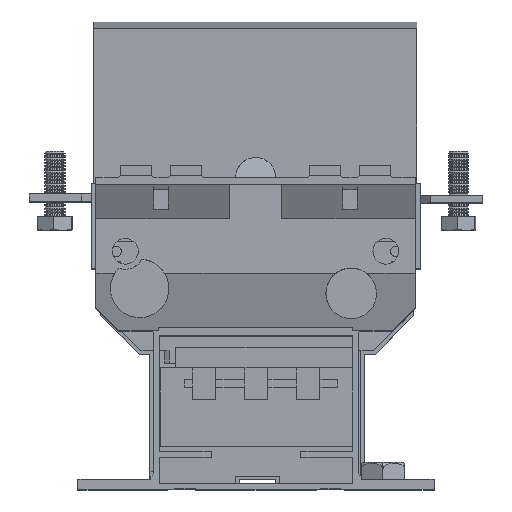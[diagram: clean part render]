
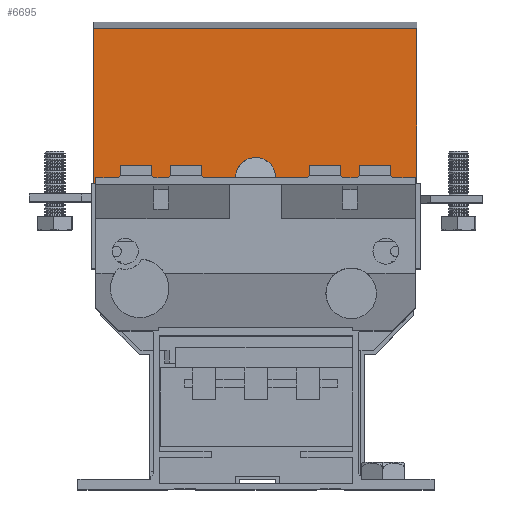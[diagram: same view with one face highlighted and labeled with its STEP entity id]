
A CAD part, top view. The second image highlights one B-rep face of the part: STEP entity #6695.
In plain terms, the highlighted planar face has unit normal (0, 0, 1) as drawn and (-1, 0, 0) by its records, which use the part's own axes.
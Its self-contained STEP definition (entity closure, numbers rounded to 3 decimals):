
#6695 = ADVANCED_FACE ( 'NONE', ( #12273 ), #12272, .F. ) ;
#6696 = EDGE_LOOP ( 'NONE', ( #6697, #6701, #6757, #6759, #6760, #6762, #6763, #6766 ) ) ;
#6697 = ORIENTED_EDGE ( 'NONE', *, *, #6698, .F. ) ;
#6698 = EDGE_CURVE ( 'NONE', #6699, #6700, #12331, .T. ) ;
#6699 = VERTEX_POINT ( 'NONE', #12327 ) ;
#6700 = VERTEX_POINT ( 'NONE', #12326 ) ;
#6701 = ORIENTED_EDGE ( 'NONE', *, *, #6703, .F. ) ;
#6703 = EDGE_CURVE ( 'NONE', #6704, #6699, #12325, .T. ) ;
#6704 = VERTEX_POINT ( 'NONE', #12321 ) ;
#6757 = ORIENTED_EDGE ( 'NONE', *, *, #6758, .F. ) ;
#6758 = EDGE_CURVE ( 'NONE', #7846, #6704, #12413, .T. ) ;
#6759 = ORIENTED_EDGE ( 'NONE', *, *, #7844, .F. ) ;
#6760 = ORIENTED_EDGE ( 'NONE', *, *, #6761, .T. ) ;
#6761 = EDGE_CURVE ( 'NONE', #7845, #7960, #12409, .T. ) ;
#6762 = ORIENTED_EDGE ( 'NONE', *, *, #7959, .T. ) ;
#6763 = ORIENTED_EDGE ( 'NONE', *, *, #6764, .F. ) ;
#6764 = EDGE_CURVE ( 'NONE', #6765, #7893, #12405, .T. ) ;
#6765 = VERTEX_POINT ( 'NONE', #12401 ) ;
#6766 = ORIENTED_EDGE ( 'NONE', *, *, #6767, .T. ) ;
#6767 = EDGE_CURVE ( 'NONE', #6765, #6700, #12464, .T. ) ;
#7844 = EDGE_CURVE ( 'NONE', #7845, #7846, #13927, .T. ) ;
#7845 = VERTEX_POINT ( 'NONE', #13923 ) ;
#7846 = VERTEX_POINT ( 'NONE', #13922 ) ;
#7893 = VERTEX_POINT ( 'NONE', #14025 ) ;
#7959 = EDGE_CURVE ( 'NONE', #7960, #7893, #14168, .T. ) ;
#7960 = VERTEX_POINT ( 'NONE', #14164 ) ;
#12269 = DIRECTION ( 'NONE',  ( 1., 0., 0. ) ) ;
#12270 = CARTESIAN_POINT ( 'NONE',  ( -54.9, 0., 124. ) ) ;
#12271 = AXIS2_PLACEMENT_3D ( 'NONE', #12270, #12269, #12332 ) ;
#12272 = PLANE ( 'NONE',  #12271 ) ;
#12273 = FACE_OUTER_BOUND ( 'NONE', #6696, .T. ) ;
#12321 = CARTESIAN_POINT ( 'NONE',  ( -54.9, 4., 105.217 ) ) ;
#12322 = DIRECTION ( 'NONE',  ( 0., -1., 0. ) ) ;
#12323 = VECTOR ( 'NONE', #12322, 1000. ) ;
#12324 = CARTESIAN_POINT ( 'NONE',  ( -54.9, 4., 105.217 ) ) ;
#12325 = LINE ( 'NONE', #12324, #12323 ) ;
#12326 = CARTESIAN_POINT ( 'NONE',  ( -54.9, 0., 18.783 ) ) ;
#12327 = CARTESIAN_POINT ( 'NONE',  ( -54.9, 0., 105.217 ) ) ;
#12328 = DIRECTION ( 'NONE',  ( 0., 0., -1. ) ) ;
#12329 = VECTOR ( 'NONE', #12328, 1000. ) ;
#12330 = CARTESIAN_POINT ( 'NONE',  ( -54.9, 0., 124. ) ) ;
#12331 = LINE ( 'NONE', #12330, #12329 ) ;
#12332 = DIRECTION ( 'NONE',  ( 0., 1., 0. ) ) ;
#12401 = CARTESIAN_POINT ( 'NONE',  ( -54.9, 4., 18.783 ) ) ;
#12402 = DIRECTION ( 'NONE',  ( 0., 0., -1. ) ) ;
#12403 = VECTOR ( 'NONE', #12402, 1000. ) ;
#12404 = CARTESIAN_POINT ( 'NONE',  ( -54.9, 4., 0. ) ) ;
#12405 = LINE ( 'NONE', #12404, #12403 ) ;
#12406 = DIRECTION ( 'NONE',  ( 0., 0., -1. ) ) ;
#12407 = VECTOR ( 'NONE', #12406, 1000. ) ;
#12408 = CARTESIAN_POINT ( 'NONE',  ( -54.9, 63.5, 124. ) ) ;
#12409 = LINE ( 'NONE', #12408, #12407 ) ;
#12410 = DIRECTION ( 'NONE',  ( 0., 0., -1. ) ) ;
#12411 = VECTOR ( 'NONE', #12410, 1000. ) ;
#12412 = CARTESIAN_POINT ( 'NONE',  ( -54.9, 4., 124. ) ) ;
#12413 = LINE ( 'NONE', #12412, #12411 ) ;
#12461 = DIRECTION ( 'NONE',  ( 0., -1., 0. ) ) ;
#12462 = VECTOR ( 'NONE', #12461, 1000. ) ;
#12463 = CARTESIAN_POINT ( 'NONE',  ( -54.9, 4., 18.783 ) ) ;
#12464 = LINE ( 'NONE', #12463, #12462 ) ;
#13922 = CARTESIAN_POINT ( 'NONE',  ( -54.9, 4., 124. ) ) ;
#13923 = CARTESIAN_POINT ( 'NONE',  ( -54.9, 63.5, 124. ) ) ;
#13924 = DIRECTION ( 'NONE',  ( 0., -1., 0. ) ) ;
#13925 = VECTOR ( 'NONE', #13924, 1000. ) ;
#13926 = CARTESIAN_POINT ( 'NONE',  ( -54.9, 0., 124. ) ) ;
#13927 = LINE ( 'NONE', #13926, #13925 ) ;
#14025 = CARTESIAN_POINT ( 'NONE',  ( -54.9, 4., 0. ) ) ;
#14164 = CARTESIAN_POINT ( 'NONE',  ( -54.9, 63.5, 0. ) ) ;
#14165 = DIRECTION ( 'NONE',  ( 0., -1., 0. ) ) ;
#14166 = VECTOR ( 'NONE', #14165, 1000. ) ;
#14167 = CARTESIAN_POINT ( 'NONE',  ( -54.9, 0., 0. ) ) ;
#14168 = LINE ( 'NONE', #14167, #14166 ) ;
